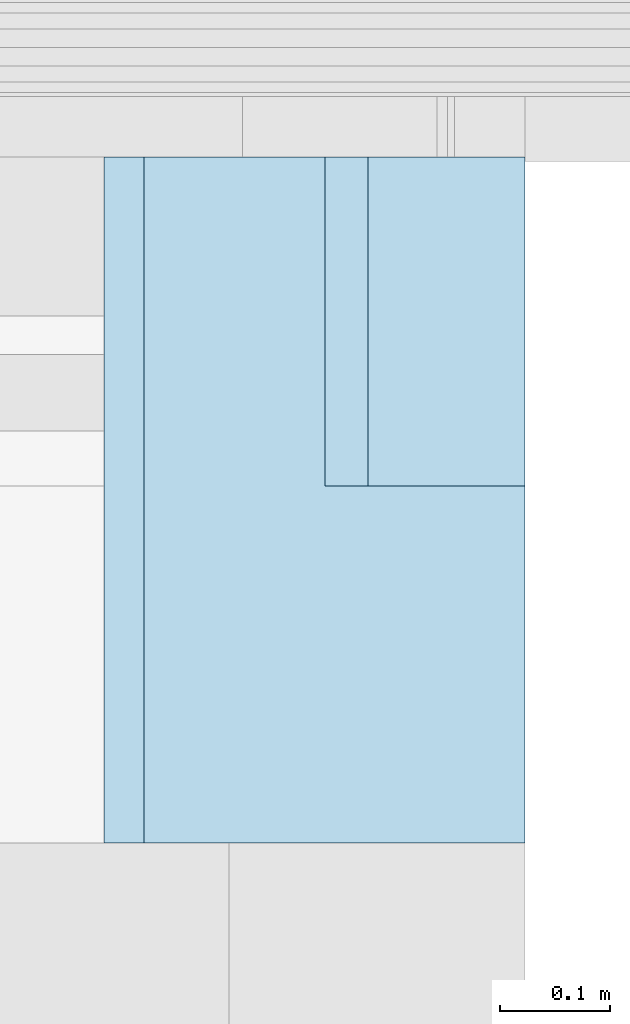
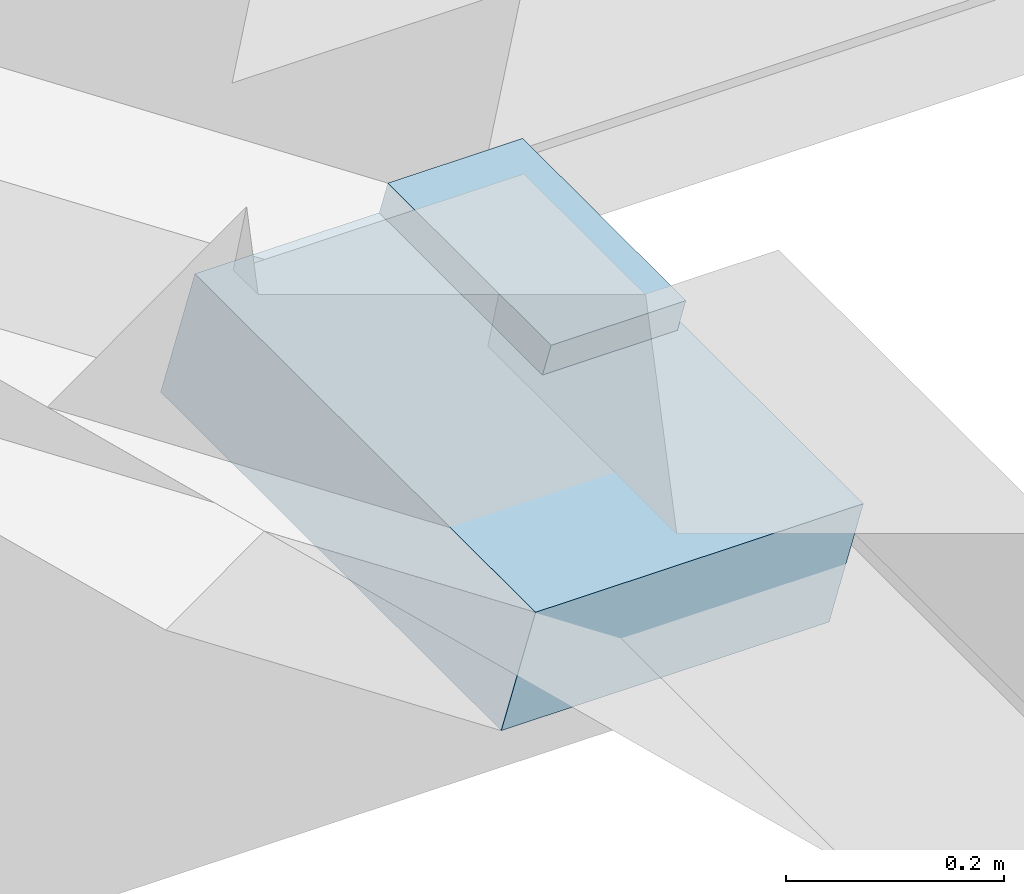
# One storey, part 30 of 165: 2 roofs.
"""IFC2X3 building model written with IfcOpenShell, lengths in millimetres."""

from ifc_helpers import new_model, entity, si_unit, converted_unit, derived_unit, money_unit, direction, frame, origin_with_axes, place, context, subcontext, project, spatial, faceted_brep, material, element, save


model = new_model("IFC2X3")

# Units and contexts
model_context = context("Model", 3, precision=0.01, world=origin_with_axes(), true_north=direction((0.0, 1.0)))
body_context = subcontext(model_context, "Body", "Model", "MODEL_VIEW")
ifc_project = project(units=[si_unit("LENGTHUNIT", "METRE", prefix="MILLI"), si_unit("AREAUNIT", "SQUARE_METRE"), si_unit("VOLUMEUNIT", "CUBIC_METRE"), converted_unit("PLANEANGLEUNIT", "DEGREE", entity("IfcPlaneAngleMeasure", 0.0174532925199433), si_unit("PLANEANGLEUNIT", "RADIAN"), dimensions=[0, 0, 0, 0, 0, 0, 0]), money_unit("EUR"), converted_unit("TIMEUNIT", "Year", entity("IfcTimeMeasure", 31556926.0), si_unit("TIMEUNIT", "SECOND"), dimensions=[0, 0, 1, 0, 0, 0, 0]), si_unit("MASSUNIT", "GRAM", prefix="KILO"), si_unit("THERMODYNAMICTEMPERATUREUNIT", "DEGREE_CELSIUS"), si_unit("LUMINOUSINTENSITYUNIT", "LUMEN"), si_unit("ENERGYUNIT", "JOULE", prefix="MEGA"), derived_unit("THERMALCONDUCTANCEUNIT", [(si_unit("POWERUNIT", "WATT"), 1), (si_unit("LENGTHUNIT", "METRE"), -1), (si_unit("THERMODYNAMICTEMPERATUREUNIT", "KELVIN"), -1)]), derived_unit("SPECIFICHEATCAPACITYUNIT", [(si_unit("ENERGYUNIT", "JOULE"), 1), (si_unit("MASSUNIT", "GRAM", prefix="KILO"), -1), (si_unit("THERMODYNAMICTEMPERATUREUNIT", "KELVIN"), -1)]), derived_unit("MASSDENSITYUNIT", [(si_unit("MASSUNIT", "GRAM", prefix="KILO"), 1), (si_unit("VOLUMEUNIT", "CUBIC_METRE"), -1)])], contexts=[model_context])

# Site, building, storey
site_placement = place(None, origin_with_axes())
site = spatial("IfcSite", under=ifc_project, at=site_placement, Name="Site", CompositionType="ELEMENT")
building_placement = place(site_placement, origin_with_axes())
building = spatial("IfcBuilding", under=site, at=building_placement, Name="Naam gebouw", CompositionType="ELEMENT")
storey_placement = place(building_placement, origin_with_axes())
storey = spatial("IfcBuildingStorey", under=building, at=storey_placement, Name="Begane grond", CompositionType="ELEMENT", Elevation=0.0)

# Roofs
ifc_material = material(Name="Isolatie - Kunststof hard")
roof_1_placement = place(storey_placement, frame((20155.63893946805, 4480.000009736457, -119.9998827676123), z_axis=(0.0, 0.0, 1.0), x_axis=(1.124334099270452e-06, -0.999999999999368, 0.0)))
element("IfcRoof", 1, at=roof_1_placement, inside=storey, material=ifc_material, Name="27_Dak-x", ShapeType="NOTDEFINED", context=body_context, shape_type="Brep", body=[
    faceted_brep([(299.9983233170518, -1508.713792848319, 129.9999999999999), (299.9984841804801, -1365.639391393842, 129.9999999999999), (-0.001535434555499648, -1365.639054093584, 129.9999999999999), (-0.001696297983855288, -1508.713455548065, 129.9999999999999), (299.9982794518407, -1548.074625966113, 1.117586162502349e-07), (299.9984403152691, -1405.000224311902, 1.117586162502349e-07), (-0.001579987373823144, -1404.999887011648, 1.117586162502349e-07), (-0.001740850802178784, -1548.074288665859, 1.117586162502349e-07)], [[[0, 1, 2, 3]], [[1, 0, 4, 5]], [[2, 1, 5, 6]], [[3, 2, 6, 7]], [[0, 3, 7, 4]], [[5, 4, 7, 6]]]),
])
roof_2_placement = place(storey_placement, frame((20155.63893946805, 4230.000009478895, -139.9999999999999), z_axis=(0.0, 0.0, 1.0), x_axis=(1.124334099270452e-06, -0.999999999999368, 0.0)))
element("IfcRoof", 2, at=roof_2_placement, inside=storey, material=ifc_material, Name="27_Dak-x", ShapeType="NOTDEFINED", context=body_context, shape_type="Brep", body=[
    faceted_brep([(375.9980918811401, -1713.399259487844, 119.9999999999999), (375.9984828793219, -1365.639476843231, 119.9999999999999), (-250.0015160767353, -1365.638773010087, 119.9999999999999), (-250.0019070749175, -1713.398555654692, 119.9999999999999), (375.9980514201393, -1749.732336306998, -1.11758824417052e-07), (375.998442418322, -1401.97255303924, -1.117587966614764e-07), (-250.0015568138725, -1401.971849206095, -1.117587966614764e-07), (-250.0019478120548, -1749.731632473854, -1.11758824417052e-07)], [[[0, 1, 2, 3]], [[1, 0, 4, 5]], [[2, 1, 5, 6]], [[3, 2, 6, 7]], [[0, 3, 7, 4]], [[5, 4, 7, 6]]]),
])

save(model, "model.ifc")
